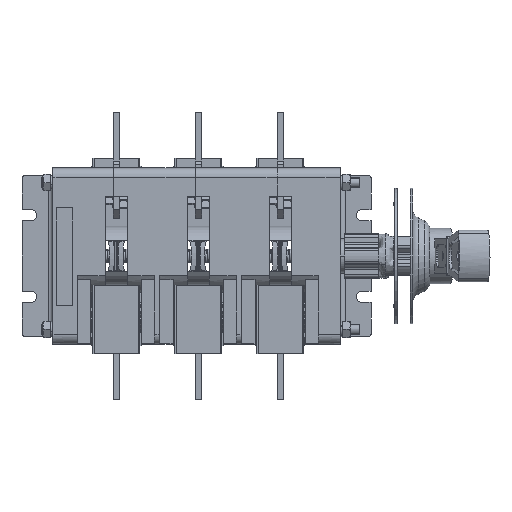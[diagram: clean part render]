
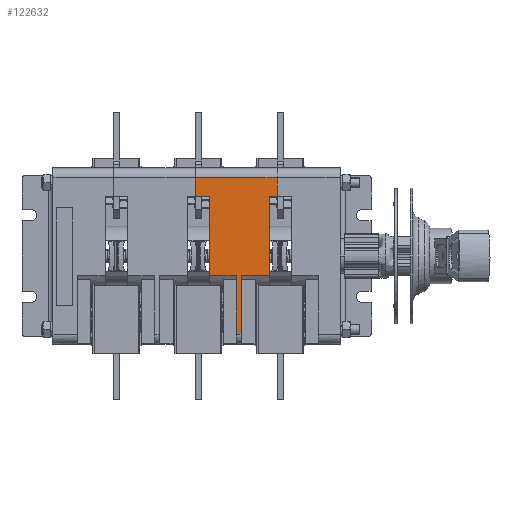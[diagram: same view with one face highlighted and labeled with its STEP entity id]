
A CAD part, front view. The second image highlights one B-rep face of the part: STEP entity #122632.
In plain terms, the highlighted planar face has unit normal (0, -1, 0) as drawn and (0, 1, 0) by its records, which use the part's own axes.
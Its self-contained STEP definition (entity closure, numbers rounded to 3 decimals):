
#1197 = DIRECTION ( 'NONE',  ( 1., 0., 0. ) ) ;
#5247 = CARTESIAN_POINT ( 'NONE',  ( 36.5, 24., 37. ) ) ;
#6573 = CARTESIAN_POINT ( 'NONE',  ( -48., 24., 16.5 ) ) ;
#7925 = VERTEX_POINT ( 'NONE', #8386 ) ;
#8386 = CARTESIAN_POINT ( 'NONE',  ( -48., 24., 19.5 ) ) ;
#9235 = VECTOR ( 'NONE', #45112, 1000. ) ;
#10953 = DIRECTION ( 'NONE',  ( -1., 0., 0. ) ) ;
#11311 = PLANE ( 'NONE',  #21254 ) ;
#12206 = CARTESIAN_POINT ( 'NONE',  ( 36.5, 24., 41.5 ) ) ;
#12266 = CARTESIAN_POINT ( 'NONE',  ( 36.5, 24., 0. ) ) ;
#13713 = EDGE_CURVE ( 'NONE', #72757, #7925, #89418, .T. ) ;
#17977 = DIRECTION ( 'NONE',  ( 0., 0., -1. ) ) ;
#17999 = DIRECTION ( 'NONE',  ( 0., 0., 1. ) ) ;
#19370 = CARTESIAN_POINT ( 'NONE',  ( -12., 24., 0. ) ) ;
#19429 = EDGE_CURVE ( 'NONE', #58053, #44360, #60526, .T. ) ;
#19669 = VECTOR ( 'NONE', #95779, 1000. ) ;
#21254 = AXIS2_PLACEMENT_3D ( 'NONE', #30622, #80731, #1197 ) ;
#21811 = ORIENTED_EDGE ( 'NONE', *, *, #19429, .T. ) ;
#21912 = LINE ( 'NONE', #22011, #42329 ) ;
#22011 = CARTESIAN_POINT ( 'NONE',  ( 36.5, 24., 41.5 ) ) ;
#22442 = DIRECTION ( 'NONE',  ( -1., 0., 0. ) ) ;
#22924 = EDGE_CURVE ( 'NONE', #27102, #70355, #21912, .T. ) ;
#27102 = VERTEX_POINT ( 'NONE', #109475 ) ;
#28100 = EDGE_CURVE ( 'NONE', #27102, #102871, #60638, .T. ) ;
#29247 = EDGE_LOOP ( 'NONE', ( #51707, #123004, #128808, #95309, #81354, #106084, #102135, #118779, #84234, #56568, #21811, #88946 ) ) ;
#29481 = LINE ( 'NONE', #12266, #32635 ) ;
#30622 = CARTESIAN_POINT ( 'NONE',  ( -48., 24., 19.5 ) ) ;
#30813 = VECTOR ( 'NONE', #124979, 1000. ) ;
#32635 = VECTOR ( 'NONE', #10953, 1000. ) ;
#33072 = LINE ( 'NONE', #67484, #110086 ) ;
#36253 = CARTESIAN_POINT ( 'NONE',  ( -48., 24., 19.5 ) ) ;
#38992 = DIRECTION ( 'NONE',  ( 1., 0., 0. ) ) ;
#42329 = VECTOR ( 'NONE', #22442, 1000. ) ;
#44360 = VERTEX_POINT ( 'NONE', #6573 ) ;
#45112 = DIRECTION ( 'NONE',  ( -1., 0., 0. ) ) ;
#48201 = CARTESIAN_POINT ( 'NONE',  ( -12., 24., 16.5 ) ) ;
#48236 = CARTESIAN_POINT ( 'NONE',  ( 48., 24., -8.5 ) ) ;
#48483 = VERTEX_POINT ( 'NONE', #73324 ) ;
#50147 = LINE ( 'NONE', #127383, #86403 ) ;
#51707 = ORIENTED_EDGE ( 'NONE', *, *, #13713, .F. ) ;
#52762 = VERTEX_POINT ( 'NONE', #73504 ) ;
#54928 = CARTESIAN_POINT ( 'NONE',  ( -48., 24., 16.5 ) ) ;
#56568 = ORIENTED_EDGE ( 'NONE', *, *, #93181, .T. ) ;
#57376 = DIRECTION ( 'NONE',  ( -1., 0., 0. ) ) ;
#57545 = LINE ( 'NONE', #102982, #30813 ) ;
#58053 = VERTEX_POINT ( 'NONE', #48201 ) ;
#60526 = LINE ( 'NONE', #54928, #19669 ) ;
#60638 = LINE ( 'NONE', #95773, #66976 ) ;
#66976 = VECTOR ( 'NONE', #17977, 1000. ) ;
#67484 = CARTESIAN_POINT ( 'NONE',  ( 36.5, 24., 37. ) ) ;
#68145 = EDGE_CURVE ( 'NONE', #70355, #105664, #80771, .T. ) ;
#70295 = FACE_OUTER_BOUND ( 'NONE', #29247, .T. ) ;
#70355 = VERTEX_POINT ( 'NONE', #12206 ) ;
#72757 = VERTEX_POINT ( 'NONE', #82250 ) ;
#73324 = CARTESIAN_POINT ( 'NONE',  ( 36.5, 24., -8.5 ) ) ;
#73494 = LINE ( 'NONE', #48236, #117488 ) ;
#73504 = CARTESIAN_POINT ( 'NONE',  ( -12., 24., 37. ) ) ;
#73747 = EDGE_CURVE ( 'NONE', #48483, #101117, #122609, .T. ) ;
#74895 = EDGE_CURVE ( 'NONE', #105664, #52762, #33072, .T. ) ;
#78182 = CARTESIAN_POINT ( 'NONE',  ( 36.5, 24., -8.5 ) ) ;
#80230 = EDGE_CURVE ( 'NONE', #52762, #72757, #57545, .T. ) ;
#80731 = DIRECTION ( 'NONE',  ( 0., -1., 0. ) ) ;
#80771 = LINE ( 'NONE', #82244, #116966 ) ;
#81354 = ORIENTED_EDGE ( 'NONE', *, *, #22924, .F. ) ;
#82244 = CARTESIAN_POINT ( 'NONE',  ( 36.5, 24., 41.5 ) ) ;
#82250 = CARTESIAN_POINT ( 'NONE',  ( -12., 24., 19.5 ) ) ;
#82683 = DIRECTION ( 'NONE',  ( 0., 0., -1. ) ) ;
#84234 = ORIENTED_EDGE ( 'NONE', *, *, #111046, .T. ) ;
#86403 = VECTOR ( 'NONE', #97462, 1000. ) ;
#86536 = CARTESIAN_POINT ( 'NONE',  ( 36.5, 24., 0. ) ) ;
#88946 = ORIENTED_EDGE ( 'NONE', *, *, #94729, .F. ) ;
#89418 = LINE ( 'NONE', #104887, #9235 ) ;
#90905 = LINE ( 'NONE', #36253, #101847 ) ;
#93181 = EDGE_CURVE ( 'NONE', #121142, #58053, #50147, .T. ) ;
#94729 = EDGE_CURVE ( 'NONE', #7925, #44360, #90905, .T. ) ;
#95309 = ORIENTED_EDGE ( 'NONE', *, *, #68145, .F. ) ;
#95773 = CARTESIAN_POINT ( 'NONE',  ( 48., 24., 19.5 ) ) ;
#95779 = DIRECTION ( 'NONE',  ( -1., 0., 0. ) ) ;
#95853 = VECTOR ( 'NONE', #17999, 1000. ) ;
#97462 = DIRECTION ( 'NONE',  ( 0., 0., 1. ) ) ;
#101117 = VERTEX_POINT ( 'NONE', #86536 ) ;
#101847 = VECTOR ( 'NONE', #106564, 1000. ) ;
#102135 = ORIENTED_EDGE ( 'NONE', *, *, #122437, .F. ) ;
#102871 = VERTEX_POINT ( 'NONE', #104300 ) ;
#102982 = CARTESIAN_POINT ( 'NONE',  ( -12., 24., 49.423 ) ) ;
#104300 = CARTESIAN_POINT ( 'NONE',  ( 48., 24., -8.5 ) ) ;
#104887 = CARTESIAN_POINT ( 'NONE',  ( -48., 24., 19.5 ) ) ;
#105664 = VERTEX_POINT ( 'NONE', #5247 ) ;
#106084 = ORIENTED_EDGE ( 'NONE', *, *, #28100, .T. ) ;
#106564 = DIRECTION ( 'NONE',  ( 0., 0., -1. ) ) ;
#109475 = CARTESIAN_POINT ( 'NONE',  ( 48., 24., 41.5 ) ) ;
#110086 = VECTOR ( 'NONE', #57376, 1000. ) ;
#111046 = EDGE_CURVE ( 'NONE', #101117, #121142, #29481, .T. ) ;
#116966 = VECTOR ( 'NONE', #82683, 1000. ) ;
#117488 = VECTOR ( 'NONE', #38992, 1000. ) ;
#118779 = ORIENTED_EDGE ( 'NONE', *, *, #73747, .T. ) ;
#121142 = VERTEX_POINT ( 'NONE', #19370 ) ;
#122437 = EDGE_CURVE ( 'NONE', #48483, #102871, #73494, .T. ) ;
#122609 = LINE ( 'NONE', #78182, #95853 ) ;
#122632 = ADVANCED_FACE ( 'NONE', ( #70295 ), #11311, .F. ) ;
#123004 = ORIENTED_EDGE ( 'NONE', *, *, #80230, .F. ) ;
#124979 = DIRECTION ( 'NONE',  ( 0., 0., -1. ) ) ;
#127383 = CARTESIAN_POINT ( 'NONE',  ( -12., 24., -12.423 ) ) ;
#128808 = ORIENTED_EDGE ( 'NONE', *, *, #74895, .F. ) ;
